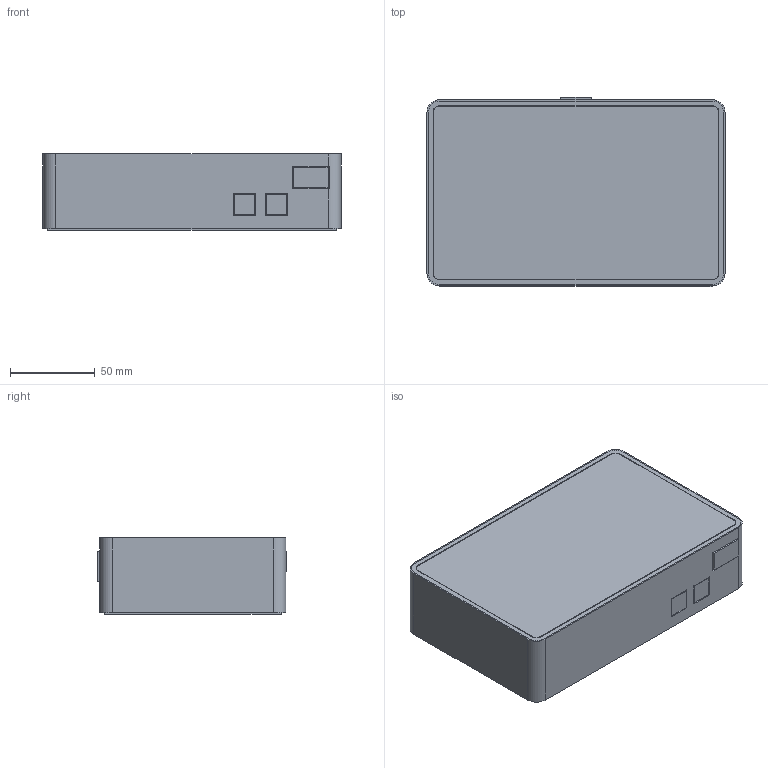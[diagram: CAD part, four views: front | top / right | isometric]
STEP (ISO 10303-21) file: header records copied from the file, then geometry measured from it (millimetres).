
FILE_DESCRIPTION(('Open CASCADE Model'),'2;1');
FILE_NAME('Open CASCADE Shape Model','2026-11-10T22:28:38',('Author'),( 'Open CASCADE'),'Open CASCADE STEP processor 7.8','Open CASCADE 7.8' ,'Unknown');
FILE_SCHEMA(('AUTOMOTIVE_DESIGN { 1 0 10303 214 1 1 1 1 }'));
Length unit declared in the file: millimetre
Products named in the file (32): TuneBox_D1_CASE_AND_LABELLED_RESERVATIONS; core; veneer; rear; screen_REFERENCE_ENVELOPE; pi_REFERENCE_ENVELOPE; hat_REFERENCE_ENVELOPE; pd_REFERENCE_ENVELOPE; ina_REFERENCE_ENVELOPE; button_REFERENCE_ENVELOPE; button_nut_REFERENCE_ENVELOPE; pct_REFERENCE_ENVELOPE; pct_qt_l_REFERENCE_ENVELOPE; pct_qt_r_REFERENCE_ENVELOPE; tsl_REFERENCE_ENVELOPE; tsl_qt_l_REFERENCE_ENVELOPE; tsl_qt_r_REFERENCE_ENVELOPE; carrier_REFERENCE_ENVELOPE; radar_REFERENCE_ENVELOPE; fuse_REFERENCE_ENVELOPE; wago1_REFERENCE_ENVELOPE; wago2_REFERENCE_ENVELOPE; speaker_l_REFERENCE_ENVELOPE; speaker_r_REFERENCE_ENVELOPE; screen_power_plug_REFERENCE_ENVELOPE; hat_power_plug_REFERENCE_ENVELOPE; hat_gpio_plug_REFERENCE_ENVELOPE; ina_qt_bottom_REFERENCE_ENVELOPE; ina_qt_top_REFERENCE_ENVELOPE; pd_qt_REFERENCE_ENVELOPE; button_leads_REFERENCE_ENVELOPE; routing_layer_REFERENCE_ENVELOPE
Assembly tree (31 placements, depth 2):
  TuneBox_D1_CASE_AND_LABELLED_RESERVATIONS
    core
    veneer
    rear
    screen_REFERENCE_ENVELOPE
    pi_REFERENCE_ENVELOPE
    hat_REFERENCE_ENVELOPE
    pd_REFERENCE_ENVELOPE
    ina_REFERENCE_ENVELOPE
    button_REFERENCE_ENVELOPE
    button_nut_REFERENCE_ENVELOPE
    pct_REFERENCE_ENVELOPE
    pct_qt_l_REFERENCE_ENVELOPE
    pct_qt_r_REFERENCE_ENVELOPE
    tsl_REFERENCE_ENVELOPE
    tsl_qt_l_REFERENCE_ENVELOPE
    tsl_qt_r_REFERENCE_ENVELOPE
    carrier_REFERENCE_ENVELOPE
    radar_REFERENCE_ENVELOPE
    fuse_REFERENCE_ENVELOPE
    wago1_REFERENCE_ENVELOPE
    wago2_REFERENCE_ENVELOPE
    speaker_l_REFERENCE_ENVELOPE
    speaker_r_REFERENCE_ENVELOPE
    screen_power_plug_REFERENCE_ENVELOPE
    hat_power_plug_REFERENCE_ENVELOPE
    hat_gpio_plug_REFERENCE_ENVELOPE
    ina_qt_bottom_REFERENCE_ENVELOPE
    ina_qt_top_REFERENCE_ENVELOPE
    pd_qt_REFERENCE_ENVELOPE
    button_leads_REFERENCE_ENVELOPE
    routing_layer_REFERENCE_ENVELOPE
Bounding box: 176 x 112 x 45 mm (x, y, z)
Volume: 684764.4 mm3; surface area: 255316.4 mm2
Topology: 31 solids, 31 shells, 269 faces, 627 edges, 418 vertices
Faces by surface type: plane 238, cylinder 31
Full cylindrical faces by diameter (mm): 16.6 x2, 22.6 x1
Entity records: 16487 total; most frequent: CARTESIAN_POINT 2890, DIRECTION 2370, LINE 1573, VECTOR 1573, ORIENTED_EDGE 1254, PCURVE 1254, DEFINITIONAL_REPRESENTATION 1254, EDGE_CURVE 627
